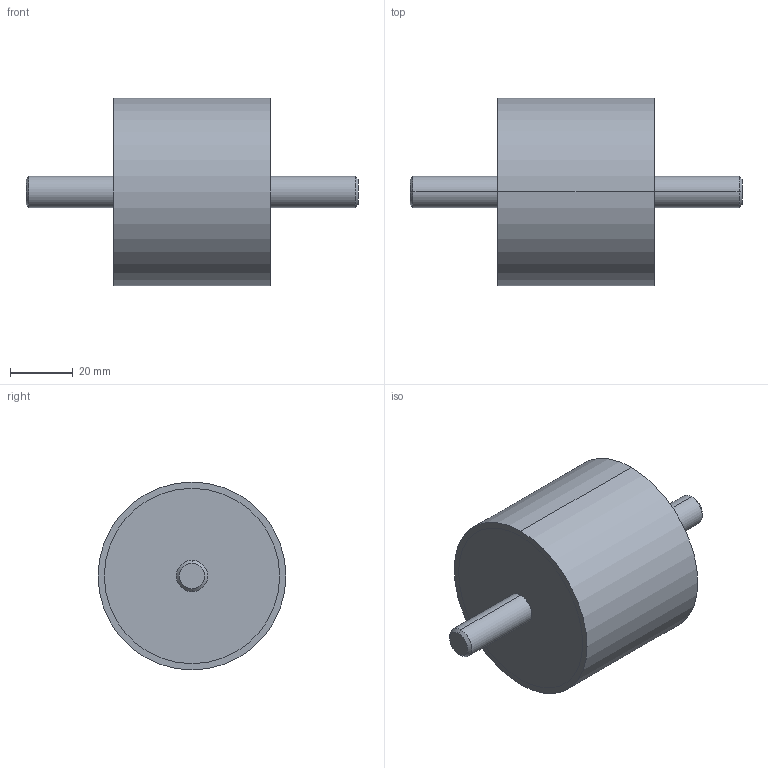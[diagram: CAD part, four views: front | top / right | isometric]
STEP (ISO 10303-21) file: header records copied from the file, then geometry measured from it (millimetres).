
FILE_DESCRIPTION (( 'STEP AP214' ), '1' );
FILE_NAME ('351-60-50-M10-SS-70.step', '2025-07-23T09:46:18', ( '' ), ( '' ), 'SwSTEP 2.0', 'SolidWorks 2022', '' );
FILE_SCHEMA (( 'AUTOMOTIVE_DESIGN' ));
Length unit declared in the file: millimetre
Products named in the file (1): 351-60-50-M10-SS-70
Bounding box: 106 x 60 x 60 mm (x, y, z)
Volume: 145695.7 mm3; surface area: 16805.8 mm2
Topology: 1 solids, 1 shells, 20 faces, 38 edges, 24 vertices
Faces by surface type: cylinder 10, plane 6, cone 4
Entity records: 636 total; most frequent: DIRECTION 104, CARTESIAN_POINT 83, ORIENTED_EDGE 76, AXIS2_PLACEMENT_3D 45, EDGE_CURVE 38, VERTEX_POINT 24, EDGE_LOOP 24, CIRCLE 24
